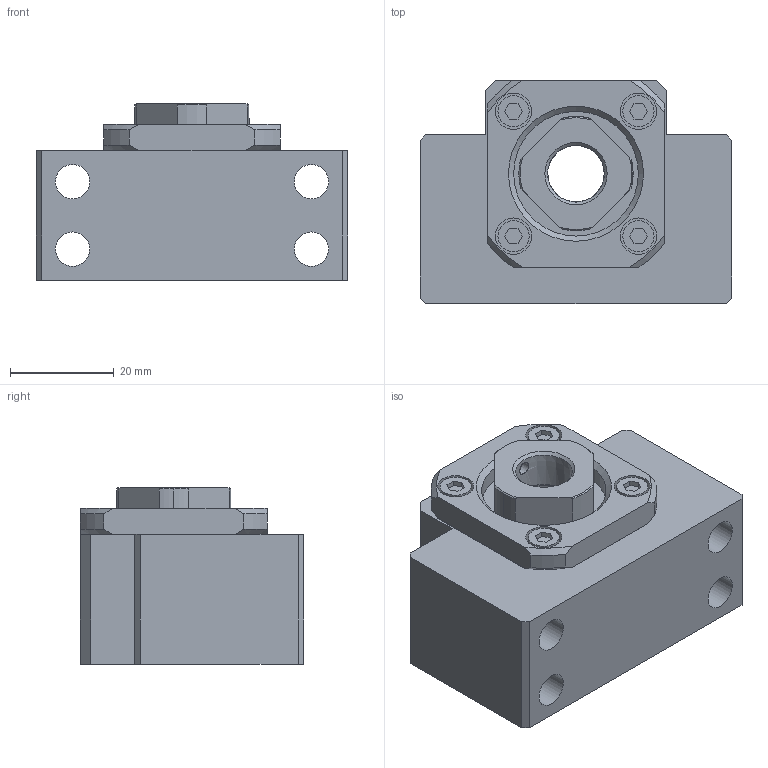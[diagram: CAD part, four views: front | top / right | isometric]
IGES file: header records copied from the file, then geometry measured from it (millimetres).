
Start section: Data from Parasolid IGES Translator 26.0.171, Copyright(c) 2006 Siemens PLM Software. All Rights Reserved.
Global section: file name: BK12Yes.igs; native system: By Siemens PLM Incorporated; preprocessor: XPlus GENERIC/IGES 26.0.171; author: Noname; organization: Noname; date: 20250611.070612; units: millimetre
Bounding box: 60 x 43 x 34 mm (x, y, z)
Surface area: 20516.8 mm2 (no closed solid volume)
Topology: 0 solids, 0 shells, 156 faces, 728 edges, 674 vertices
Faces by surface type: extrusion 94, revolution 62
